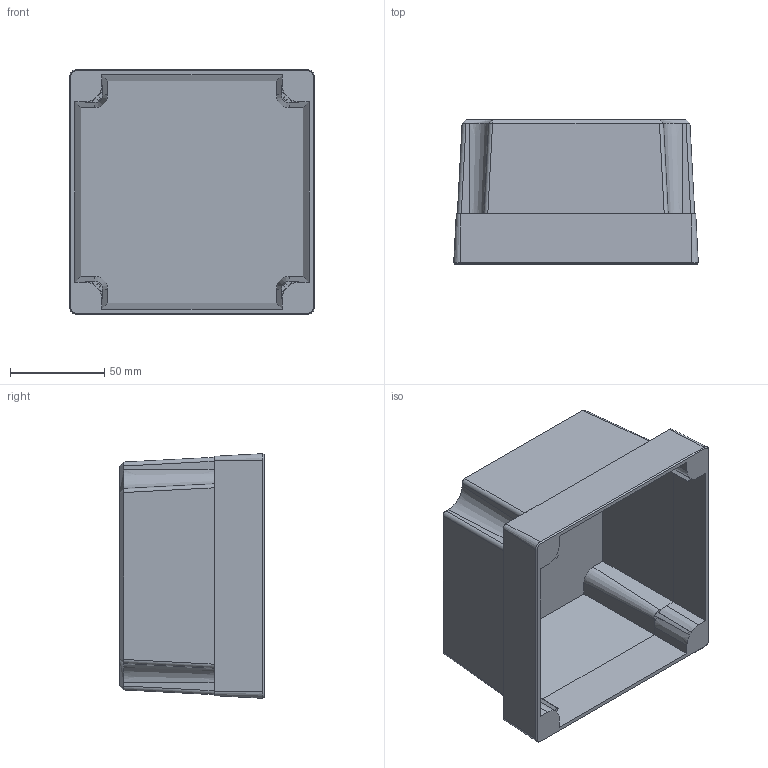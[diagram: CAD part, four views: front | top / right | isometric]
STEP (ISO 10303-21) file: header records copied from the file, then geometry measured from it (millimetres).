
FILE_DESCRIPTION (( 'STEP AP203' ), '1' );
FILE_NAME ('FIBOX_MNX12575C.STEP', '2005-06-30T07:31:17', ( ' ' ), ( ' ' ), 'SwSTEP 2.0', 'SolidWorks 2005143', '' );
FILE_SCHEMA (( 'CONFIG_CONTROL_DESIGN' ));
Length unit declared in the file: millimetre
Products named in the file (1): FIBOX_MNX12575C
Bounding box: 129.93 x 76.6 x 129.93 mm (x, y, z)
Volume: 108867.8 mm3; surface area: 104265.1 mm2
Topology: 1 solids, 1 shells, 127 faces, 337 edges, 219 vertices
Faces by surface type: plane 77, cone 28, cylinder 20, bspline 2
Entity records: 6387 total; most frequent: CARTESIAN_POINT 3223, ORIENTED_EDGE 674, DIRECTION 604, EDGE_CURVE 337, VERTEX_POINT 219, AXIS2_PLACEMENT_3D 206, VECTOR 192, LINE 192
